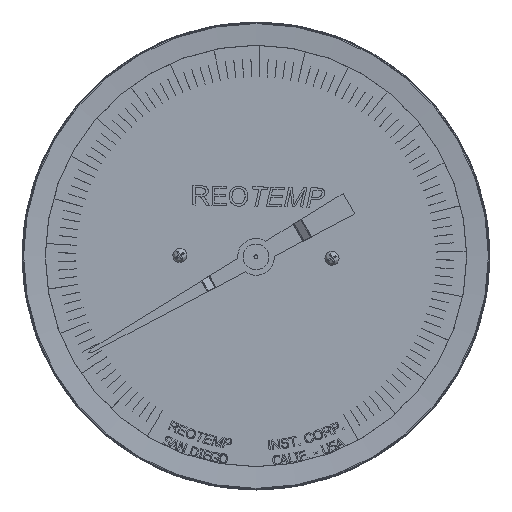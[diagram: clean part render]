
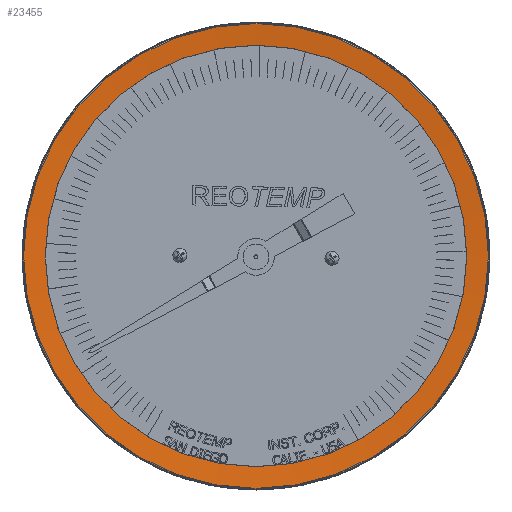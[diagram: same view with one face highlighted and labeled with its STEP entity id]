
A CAD part, top view. The second image highlights one B-rep face of the part: STEP entity #23455.
In plain terms, the highlighted conical face has half-angle 85 degrees and reference radius 60.337 mm.
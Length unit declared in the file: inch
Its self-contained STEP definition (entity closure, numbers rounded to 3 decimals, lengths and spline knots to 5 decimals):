
#7348=CONICAL_SURFACE($,#24790,2.37548,85.);
#8425=FACE_BOUND($,#10015,.T.);
#8721=FACE_OUTER_BOUND($,#10014,.T.);
#10014=EDGE_LOOP($,(#17087));
#10015=EDGE_LOOP($,(#17088));
#11507=CIRCLE($,#24789,2.25186);
#11508=CIRCLE($,#24791,2.48369);
#11594=VERTEX_POINT($,#31075);
#11595=VERTEX_POINT($,#31078);
#13774=EDGE_CURVE($,#11594,#11594,#11507,.T.);
#13775=EDGE_CURVE($,#11595,#11595,#11508,.T.);
#17087=ORIENTED_EDGE($,*,*,#13775,.F.);
#17088=ORIENTED_EDGE($,*,*,#13774,.F.);
#23455=ADVANCED_FACE($,(#8721,#8425),#7348,.F.);
#24789=AXIS2_PLACEMENT_3D($,#31076,#26033,#26034);
#24790=AXIS2_PLACEMENT_3D($,#31077,#26035,#26036);
#24791=AXIS2_PLACEMENT_3D($,#31079,#26037,#26038);
#26033=DIRECTION('center_axis',(0.,0.,1.));
#26034=DIRECTION('ref_axis',(-1.,0.,0.));
#26035=DIRECTION('center_axis',(0.,0.,1.));
#26036=DIRECTION('ref_axis',(1.,0.,0.));
#26037=DIRECTION('center_axis',(0.,0.,-1.));
#26038=DIRECTION('ref_axis',(-1.,0.,0.));
#31075=CARTESIAN_POINT('',(7.97497,0.77903,7.98376));
#31076=CARTESIAN_POINT('Origin',(5.7231,0.77903,7.98376));
#31077=CARTESIAN_POINT('Origin',(5.7231,0.77903,7.99457));
#31078=CARTESIAN_POINT('',(8.20679,0.77903,8.00404));
#31079=CARTESIAN_POINT('Origin',(5.7231,0.77903,8.00404));
